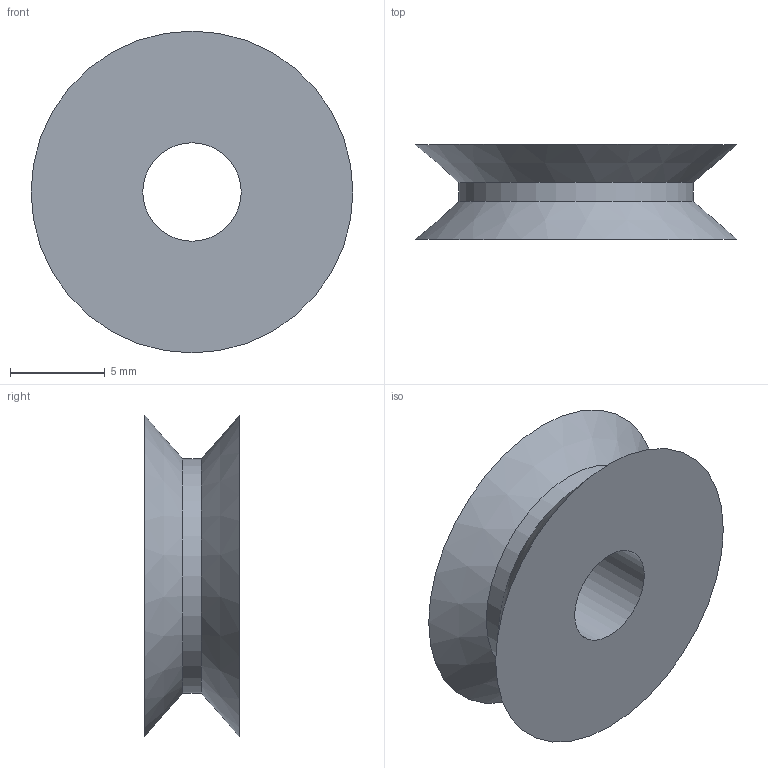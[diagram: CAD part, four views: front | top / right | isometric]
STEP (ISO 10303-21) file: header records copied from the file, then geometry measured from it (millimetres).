
FILE_DESCRIPTION(('Open CASCADE Model'),'2;1');
FILE_NAME('P11-root_guide.step', '', ('Noah Wilson'), (''), '', '', '');
FILE_SCHEMA(('AUTOMOTIVE_DESIGN { 1 0 10303 214 1 1 1 1 }'));
Length unit declared in the file: millimetre
Products named in the file (1): COMPOUND
Bounding box: 17 x 5 x 17 mm (x, y, z)
Volume: 699 mm3; surface area: 813.6 mm2
Topology: 1 solids, 1 shells, 6 faces, 10 edges, 6 vertices
Faces by surface type: cylinder 2, cone 2, plane 2
Full cylindrical faces by diameter (mm): 5.2 x1, 12.4 x1
Entity records: 292 total; most frequent: CARTESIAN_POINT 57, DIRECTION 46, ORIENTED_EDGE 20, PCURVE 20, DEFINITIONAL_REPRESENTATION 20, LINE 18, VECTOR 18, AXIS2_PLACEMENT_3D 13
